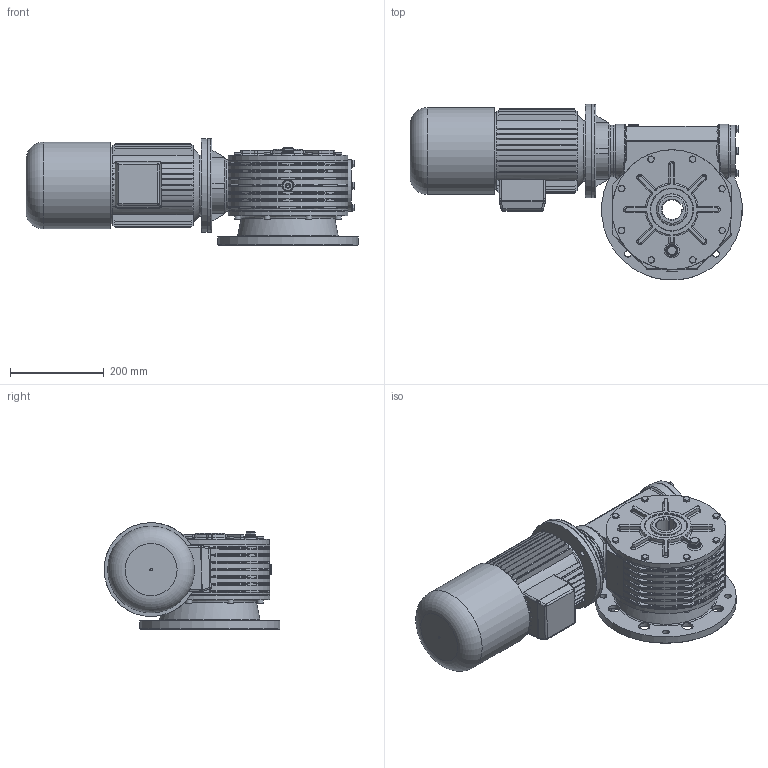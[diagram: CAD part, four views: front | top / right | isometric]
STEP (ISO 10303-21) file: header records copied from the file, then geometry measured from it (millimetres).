
FILE_DESCRIPTION((''),'2;1');
FILE_NAME('Y:\Archivi Inventor\Prog_01\GRAND_60\FIGURINI\MRV60 sito\90L AUTOFRENANTE\MRV60_F2_90L_B5.stp','2013-02-08T11:12:53',('tech3'),(''),'Autodesk Inventor 2013','Autodesk Inventor 2013','');
FILE_SCHEMA(('AUTOMOTIVE_DESIGN { 1 0 10303 214 1 1 1 1 }'));
Length unit declared in the file: millimetre
Products named in the file (19): MRV60_90S_90L_B5; MRV60_FIG; 0106001.A0 figurino; 0106009; UNI 5739 M8 x 20; figurino corona; PARAOLIO 65x90x10; 0106028; 0106029; UNI 5739 M8 x 25; Guarnizione 3_8 GAS; Tappo3_8 GAS; Tappo 3_8 GAS_esagn_incsst; DIN EN ISO 4762 M8 x 16; 0106002.A0 figurino; 0106003.A0 figurino; UNI 8839 A 8; 0106006; motori B5 brake 90L
Assembly tree (47 placements, depth 3):
  MRV60_90S_90L_B5
    MRV60_FIG
      0106001.A0 figurino
      0106009
      UNI 5739 M8 x 20  x4
      figurino corona
      PARAOLIO 65x90x10  x2
      0106028
      0106029  x2
      UNI 5739 M8 x 25  x8
      Guarnizione 3_8 GAS  x3
      Tappo3_8 GAS
      Tappo 3_8 GAS_esagn_incsst  x2
      DIN EN ISO 4762 M8 x 16  x12
      0106002.A0 figurino
      0106003.A0 figurino
      UNI 8839 A 8  x4
    0106006
    motori B5 brake 90L
Bounding box: 707.53 x 374.43 x 227.35 mm (x, y, z)
Volume: 14938905 mm3; surface area: 1604605 mm2
Topology: 47 solids, 51 shells, 2132 faces, 5199 edges, 3148 vertices
Faces by surface type: plane 953, cylinder 635, bspline 204, cone 161, torus 157, sphere 22
Full cylindrical faces by diameter (mm): 2 x2, 5 x1, 6.647 x24, 8 x26, 8.5 x40, 8.75 x4, 11 x4, 11.5 x4, 11.63 x12, 13 x12, 13.046 x1, 14 x4, 14.95 x3, 16 x4, 16.3 x3, 16.5 x2, 22 x6, 24 x9, 25 x2, 42 x1, 65 x2, 70 x1, 72.881 x2, 80 x5, 83.5 x2, 90 x5, 109.5 x1, 110 x4, 114 x2, 120 x1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
Entity records: 60757 total; most frequent: CARTESIAN_POINT 20239, DIRECTION 8343, ORIENTED_EDGE 7918, EDGE_CURVE 3959, AXIS2_PLACEMENT_3D 3310, VERTEX_POINT 2545, EDGE_LOOP 2090, VECTOR 1723
